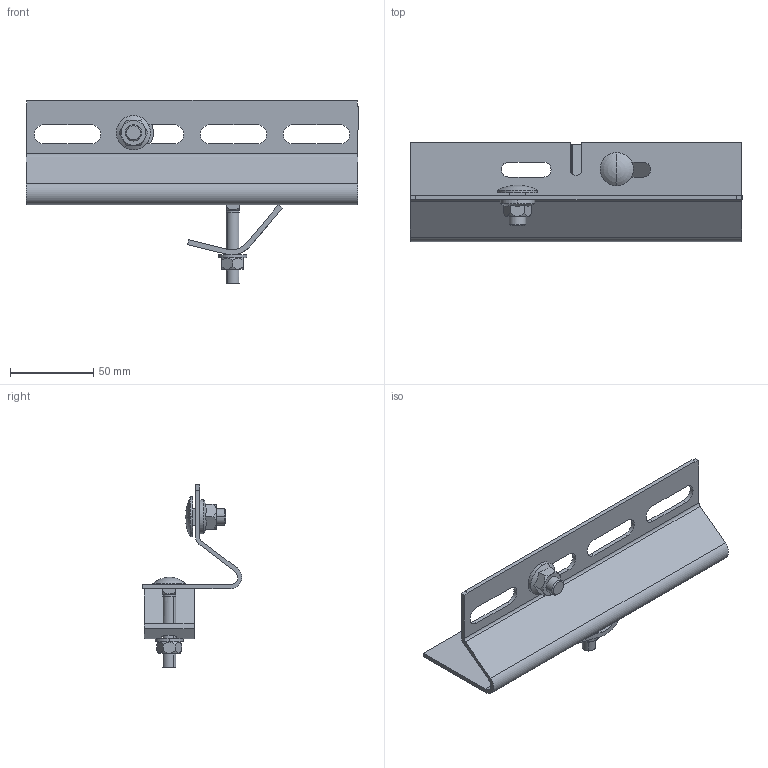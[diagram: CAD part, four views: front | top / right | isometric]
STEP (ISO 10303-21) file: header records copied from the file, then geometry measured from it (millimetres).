
FILE_DESCRIPTION(('Creo Elements/Direct Modeling STEP Export'),'2;1');
FILE_NAME('//pserver/office/EK/ME10-3D/3D-output/WPF-P.stp','2021-02-09T13:45:18',(''),(''),'PTC Creo Elements/Direct Modeling STEP processor for AP214 (Solid Model)','PTC Creo Elements/Direct Modeling 19.0C 15-Aug-2015 (C) Parametric Technology GmbH','');
FILE_SCHEMA(('AUTOMOTIVE_DESIGN { 1 0 10303 214 1 1 1 1 }'));
Length unit declared in the file: millimetre
Products named in the file (8): WPF; SEMS_10; FRSV_10x20; SKL_SL30_F; FRS_8x50; US_8x17; SEM_8; WPF-P
Assembly tree (7 placements, depth 2):
  WPF-P
    SEM_8
    US_8x17
    FRS_8x50
    SKL_SL30_F
    FRSV_10x20
    SEMS_10
    WPF
Bounding box: 200 x 59.98 x 110.5 mm (x, y, z)
Volume: 73619.4 mm3; surface area: 60926.6 mm2
Topology: 7 solids, 7 shells, 194 faces, 492 edges, 312 vertices
Faces by surface type: plane 109, cylinder 48, cone 32, sphere 4, bspline 1
Entity records: 10043 total; most frequent: CARTESIAN_POINT 5070, ORIENTED_EDGE 976, DIRECTION 892, EDGE_CURVE 488, VERTEX_POINT 312, AXIS2_PLACEMENT_3D 299, VECTOR 294, LINE 294
